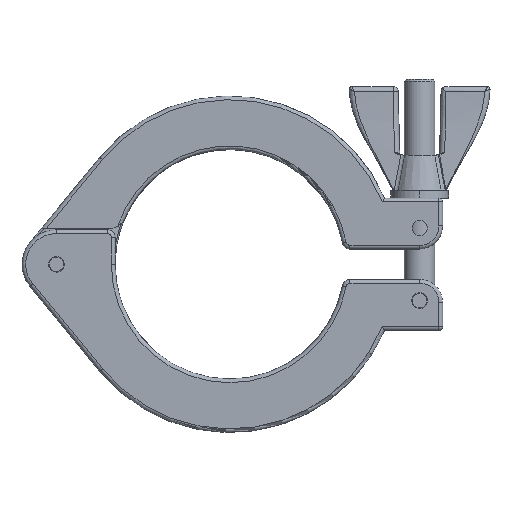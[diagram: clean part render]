
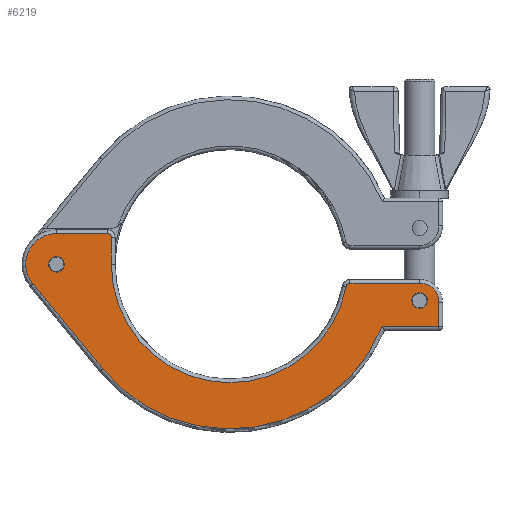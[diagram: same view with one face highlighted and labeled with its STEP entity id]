
A CAD part, front view. The second image highlights one B-rep face of the part: STEP entity #6219.
In plain terms, the highlighted planar face has unit normal (0, -1, 0).
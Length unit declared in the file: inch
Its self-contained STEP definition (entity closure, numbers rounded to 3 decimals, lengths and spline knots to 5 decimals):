
#467=VECTOR('',#7229,1.);
#468=VECTOR('',#7232,1.);
#469=VECTOR('',#7237,1.);
#470=VECTOR('',#7240,1.);
#471=VECTOR('',#7243,1.);
#472=VECTOR('',#7246,1.);
#702=LINE('',#22914,#467);
#703=LINE('',#22919,#468);
#704=LINE('',#22925,#469);
#705=LINE('',#22929,#470);
#706=LINE('',#22933,#471);
#707=LINE('',#22937,#472);
#853=PLANE('',#63611);
#1300=VERTEX_POINT('',#8022);
#1558=VERTEX_POINT('',#22915);
#1559=VERTEX_POINT('',#22916);
#1560=VERTEX_POINT('',#22918);
#1561=VERTEX_POINT('',#22920);
#1562=VERTEX_POINT('',#22922);
#1563=VERTEX_POINT('',#22924);
#1564=VERTEX_POINT('',#22926);
#1565=VERTEX_POINT('',#22928);
#1566=VERTEX_POINT('',#22930);
#1567=VERTEX_POINT('',#22932);
#1568=VERTEX_POINT('',#22934);
#1569=VERTEX_POINT('',#22936);
#1570=VERTEX_POINT('',#22939);
#1901=CIRCLE('',#63312,0.064);
#2054=CIRCLE('',#63612,0.158);
#2055=CIRCLE('',#63613,0.032);
#2056=CIRCLE('',#63614,0.9675);
#2057=CIRCLE('',#63615,0.032);
#2058=CIRCLE('',#63616,0.25125);
#2059=CIRCLE('',#63617,1.345);
#2060=CIRCLE('',#63618,0.064);
#2218=EDGE_CURVE('',#1300,#1300,#1901,.T.);
#2631=EDGE_CURVE('',#1558,#1559,#702,.T.);
#2632=EDGE_CURVE('',#1560,#1558,#2054,.T.);
#2633=EDGE_CURVE('',#1561,#1560,#703,.T.);
#2634=EDGE_CURVE('',#1562,#1561,#2055,.T.);
#2635=EDGE_CURVE('',#1563,#1562,#2056,.F.);
#2636=EDGE_CURVE('',#1564,#1563,#704,.T.);
#2637=EDGE_CURVE('',#1565,#1564,#2057,.T.);
#2638=EDGE_CURVE('',#1566,#1565,#705,.T.);
#2639=EDGE_CURVE('',#1567,#1566,#2058,.T.);
#2640=EDGE_CURVE('',#1568,#1567,#706,.T.);
#2641=EDGE_CURVE('',#1569,#1568,#2059,.T.);
#2642=EDGE_CURVE('',#1559,#1569,#707,.T.);
#2643=EDGE_CURVE('',#1570,#1570,#2060,.T.);
#4010=ORIENTED_EDGE('',*,*,#2218,.T.);
#4011=ORIENTED_EDGE('',*,*,#2631,.F.);
#4012=ORIENTED_EDGE('',*,*,#2632,.F.);
#4013=ORIENTED_EDGE('',*,*,#2633,.F.);
#4014=ORIENTED_EDGE('',*,*,#2634,.F.);
#4015=ORIENTED_EDGE('',*,*,#2635,.F.);
#4016=ORIENTED_EDGE('',*,*,#2636,.F.);
#4017=ORIENTED_EDGE('',*,*,#2637,.F.);
#4018=ORIENTED_EDGE('',*,*,#2638,.F.);
#4019=ORIENTED_EDGE('',*,*,#2639,.F.);
#4020=ORIENTED_EDGE('',*,*,#2640,.F.);
#4021=ORIENTED_EDGE('',*,*,#2641,.F.);
#4022=ORIENTED_EDGE('',*,*,#2642,.F.);
#4023=ORIENTED_EDGE('',*,*,#2643,.F.);
#5355=EDGE_LOOP('',(#4010));
#5356=EDGE_LOOP('',(#4011,#4012,#4013,#4014,#4015,#4016,#4017,#4018,#4019,
#4020,#4021,#4022));
#5357=EDGE_LOOP('',(#4023));
#5795=FACE_BOUND('',#5355,.T.);
#5796=FACE_BOUND('',#5356,.T.);
#5797=FACE_BOUND('',#5357,.T.);
#6219=ADVANCED_FACE('',(#5795,#5796,#5797),#853,.F.);
#6580=DIRECTION('',(0.,1.,0.));
#6581=DIRECTION('',(-0.043,0.,-0.048));
#7228=DIRECTION('',(0.,1.,0.));
#7229=DIRECTION('',(0.,0.,-1.));
#7230=DIRECTION('',(0.,1.,0.));
#7231=DIRECTION('',(0.,0.,0.158));
#7232=DIRECTION('',(1.,0.,0.));
#7233=DIRECTION('',(0.,1.,0.));
#7234=DIRECTION('',(0.,0.,0.032));
#7235=DIRECTION('',(0.,1.,0.));
#7236=DIRECTION('',(0.,0.,0.968));
#7237=DIRECTION('',(0.,0.,-1.));
#7238=DIRECTION('',(0.,1.,0.));
#7239=DIRECTION('',(0.,0.,0.032));
#7240=DIRECTION('',(1.,0.,0.));
#7241=DIRECTION('',(0.,1.,0.));
#7242=DIRECTION('',(0.,0.,0.251));
#7243=DIRECTION('',(-0.635,0.,0.772));
#7244=DIRECTION('',(0.,1.,0.));
#7245=DIRECTION('',(0.,0.,1.345));
#7246=DIRECTION('',(-1.,0.,0.));
#7247=DIRECTION('',(0.,-1.,0.));
#7248=DIRECTION('',(-0.043,0.,-0.048));
#8021=CARTESIAN_POINT('',(1.99985,-0.305,-0.29854));
#8022=CARTESIAN_POINT('',(2.04265,-0.305,-0.25096));
#22913=CARTESIAN_POINT('',(0.42776,-0.305,-0.56726));
#22914=CARTESIAN_POINT('',(2.15785,-0.305,-0.55435));
#22915=CARTESIAN_POINT('',(2.15785,-0.305,-0.31464));
#22916=CARTESIAN_POINT('',(2.15785,-0.305,-0.51144));
#22917=CARTESIAN_POINT('',(1.99985,-0.305,-0.31464));
#22918=CARTESIAN_POINT('',(1.99985,-0.305,-0.15664));
#22919=CARTESIAN_POINT('',(1.30781,-0.305,-0.15664));
#22920=CARTESIAN_POINT('',(1.4307,-0.305,-0.15664));
#22921=CARTESIAN_POINT('',(1.4307,-0.305,-0.18864));
#22922=CARTESIAN_POINT('',(1.39927,-0.305,-0.18265));
#22923=CARTESIAN_POINT('',(0.44885,-0.305,-0.00164));
#22924=CARTESIAN_POINT('',(-0.51865,-0.305,-0.00164));
#22925=CARTESIAN_POINT('',(-0.51865,-0.305,-0.28445));
#22926=CARTESIAN_POINT('',(-0.51865,-0.305,0.21761));
#22927=CARTESIAN_POINT('',(-0.55065,-0.305,0.21761));
#22928=CARTESIAN_POINT('',(-0.55065,-0.305,0.24961));
#22929=CARTESIAN_POINT('',(-0.06144,-0.305,0.24961));
#22930=CARTESIAN_POINT('',(-0.9674,-0.305,0.24961));
#22931=CARTESIAN_POINT('',(-0.9674,-0.305,-0.00164));
#22932=CARTESIAN_POINT('',(-1.16144,-0.305,-0.16125));
#22933=CARTESIAN_POINT('',(-0.74116,-0.305,-0.67217));
#22934=CARTESIAN_POINT('',(-0.58987,-0.305,-0.85609));
#22935=CARTESIAN_POINT('',(0.44885,-0.305,-0.00164));
#22936=CARTESIAN_POINT('',(1.69349,-0.305,-0.51144));
#22937=CARTESIAN_POINT('',(1.07061,-0.305,-0.51144));
#22938=CARTESIAN_POINT('',(-0.9674,-0.305,-0.00164));
#22939=CARTESIAN_POINT('',(-0.9246,-0.305,0.04594));
#63312=AXIS2_PLACEMENT_3D('',#8021,#6580,#6581);
#63611=AXIS2_PLACEMENT_3D('',#22913,#7228,$);
#63612=AXIS2_PLACEMENT_3D('',#22917,#7230,#7231);
#63613=AXIS2_PLACEMENT_3D('',#22921,#7233,#7234);
#63614=AXIS2_PLACEMENT_3D('',#22923,#7235,#7236);
#63615=AXIS2_PLACEMENT_3D('',#22927,#7238,#7239);
#63616=AXIS2_PLACEMENT_3D('',#22931,#7241,#7242);
#63617=AXIS2_PLACEMENT_3D('',#22935,#7244,#7245);
#63618=AXIS2_PLACEMENT_3D('',#22938,#7247,#7248);
